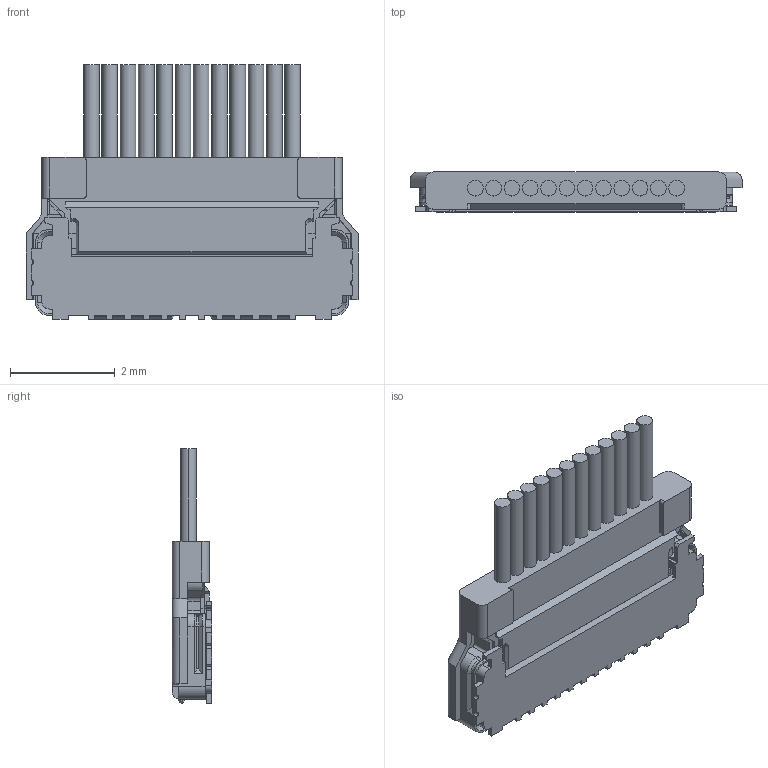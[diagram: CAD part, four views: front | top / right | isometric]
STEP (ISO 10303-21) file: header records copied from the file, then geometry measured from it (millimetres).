
FILE_DESCRIPTION (( 'STEP AP203' ), '1' );
FILE_NAME ('20857-016T-01C+20854-016T-02C MATING STEP R8R7R3 Meta.STEP', '2025-06-26T09:58:52', ( '' ), ( '' ), 'SwSTEP 2.0', 'SolidWorks 2023', '' );
FILE_SCHEMA (( 'CONFIG_CONTROL_DESIGN' ));
Length unit declared in the file: millimetre
Products named in the file (1): 20857-016T-01C+20854-016T-02C MATING STEP R8R7R3 Meta
Bounding box: 6.35 x 0.76 x 4.88 mm (x, y, z)
Volume: 13.2 mm3; surface area: 96.5 mm2
Topology: 1 solids, 1 shells, 545 faces, 1537 edges, 984 vertices
Faces by surface type: plane 360, cylinder 140, cone 28, bspline 13, torus 4
Entity records: 18191 total; most frequent: CARTESIAN_POINT 4049, ORIENTED_EDGE 3074, DIRECTION 2773, EDGE_CURVE 1537, LINE 1191, VECTOR 1191, VERTEX_POINT 984, AXIS2_PLACEMENT_3D 791
